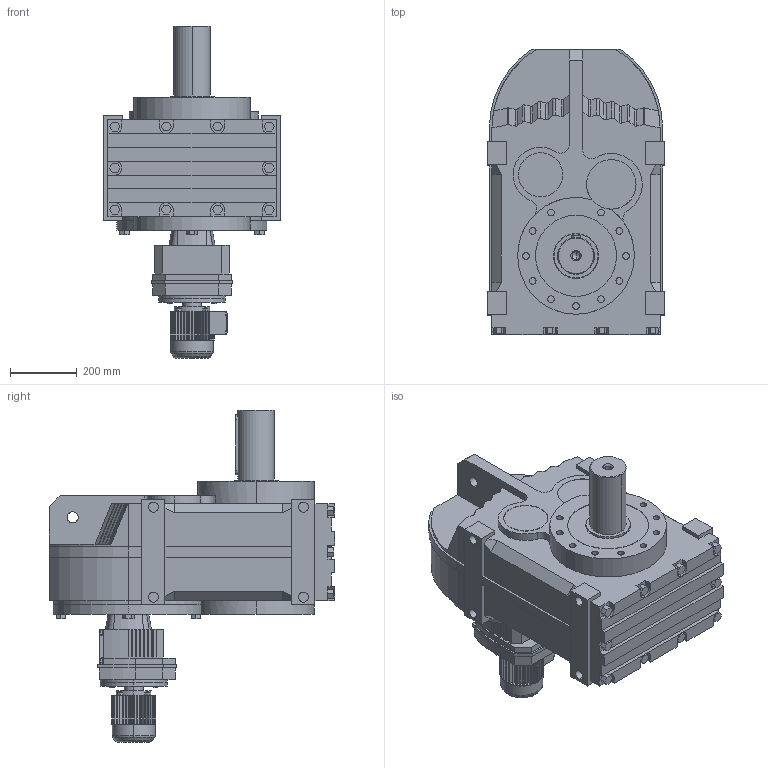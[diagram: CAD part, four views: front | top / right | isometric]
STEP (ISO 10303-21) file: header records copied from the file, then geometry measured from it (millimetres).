
FILE_DESCRIPTION(('Open CASCADE Model'),'2;1');
FILE_NAME('Open CASCADE Shape Model','2021-07-24T10:30:39',('Author'),( 'Open CASCADE'),'Open CASCADE STEP processor 6.3','Open CASCADE 6.3' ,'Unknown');
FILE_SCHEMA(('AUTOMOTIVE_DESIGN_CC2 { 1 2 10303 214 -1 1 5 4 }'));
Length unit declared in the file: millimetre
Products named in the file (5): 1_F127R77DR63; FAZ27‵157_127.step; 萇儂_200-DR63-179-234-132-105.step; R_127_77.step; す瑩妗陑粣F_127.step
Assembly tree (4 placements, depth 2):
  1_F127R77DR63
    FAZ27‵157_127.step
    萇儂_200-DR63-179-234-132-105.step
    R_127_77.step
    す瑩妗陑粣F_127.step
Bounding box: 530 x 856 x 996 mm (x, y, z)
Volume: 142039157 mm3; surface area: 3138886.2 mm2
Topology: 4 solids, 4 shells, 1028 faces, 2720 edges, 1778 vertices
Faces by surface type: plane 756, cylinder 236, bspline 16, cone 16, torus 4
Entity records: 69456 total; most frequent: CARTESIAN_POINT 16874, DIRECTION 9268, LINE 5491, VECTOR 5491, ORIENTED_EDGE 5436, PCURVE 5436, DEFINITIONAL_REPRESENTATION 5436, EDGE_CURVE 2718
